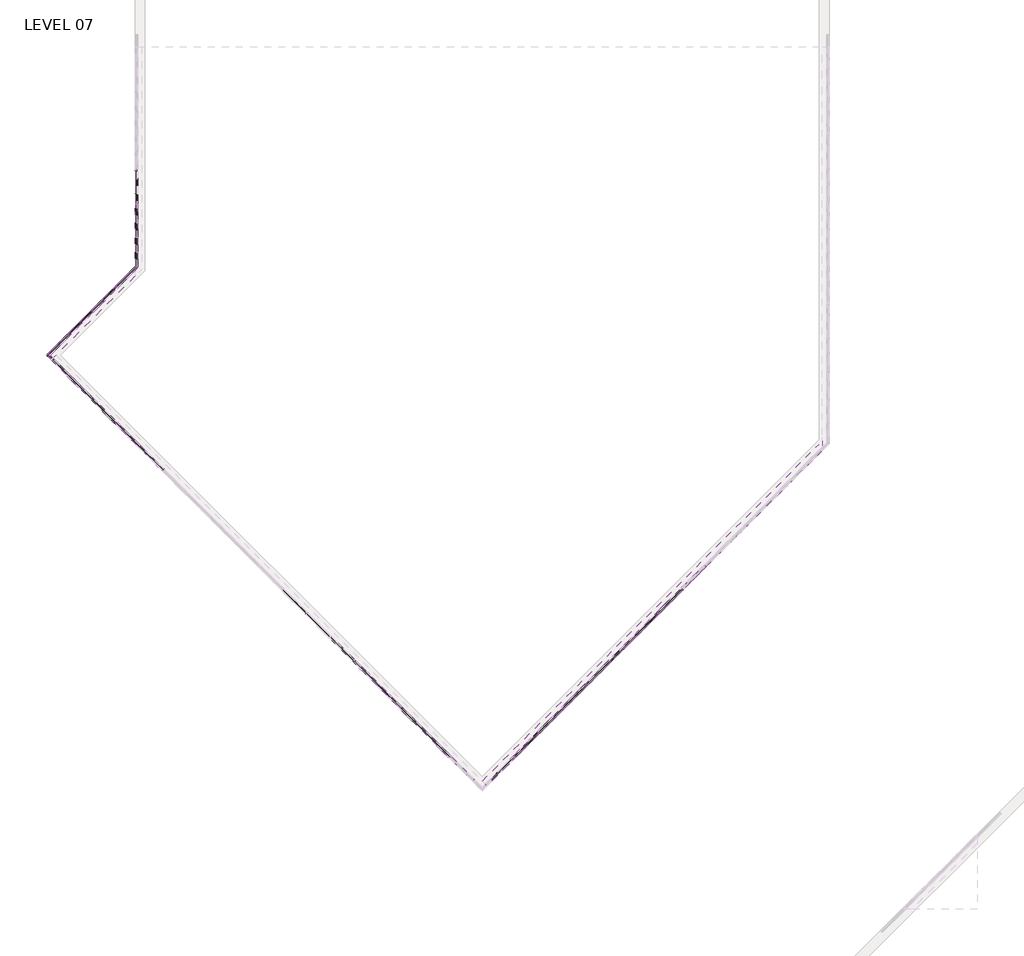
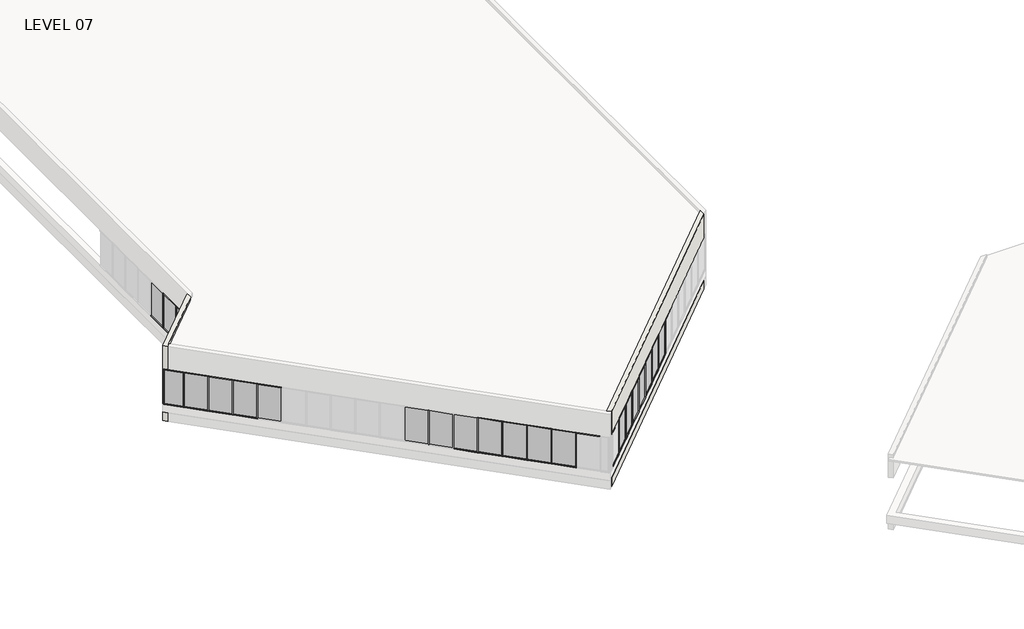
# One storey, part 3 of 18: 75 members, 26 plates, 4 walls.
"""IFC4 building model written with IfcOpenShell, lengths in millimetres."""

from ifc_helpers import new_model, si_unit, origin, place, context, project, spatial, faceted_brep, transform, mapped, element, save
from components import member_5247f267, member_e44af9ab, member_800970d4, member_45eb7f2e, member_53409b32, member_43bac76b, member_0b71a88d, plate_67294edd, plate_aaac5d3d, plate_048e4634, plate_9c66726c, plate_e0fd5134, plate_62af1d3c, plate_15429445, plate_0d1907f3, plate_903242d9

model = new_model("IFC4")

# Units and contexts
model_context = context("Model", 3, world=origin())
ifc_project = project(units=[si_unit("LENGTHUNIT", "METRE", prefix="MILLI")], contexts=[model_context])

# Site, building, storey
site = spatial("IfcSite", under=ifc_project)
building = spatial("IfcBuilding", under=site)
storey = spatial("IfcBuildingStorey", under=building, Name="LEVEL 07", Elevation=23368.0)

# Members
placement = place(None, origin())
member_shape = member_5247f267(model_context)
element("IfcMember", 1, ObjectType="Rectangular Mullion : 2\" x 4.5\" rectangular", at=placement, inside=storey, context=model_context, shape_type="MappedRepresentation", body=[
    mapped(member_shape, transform((-32784.0347164, 49110.5675885, 25958.8), x_axis=(0.0, 0.0, 1.0), y_axis=(1.0, 0.0, 0.0), z_axis=(0.0, 1.0, 0.0))),
])
element("IfcMember", 2, ObjectType="Rectangular Mullion : 2\" x 4.5\" rectangular", at=placement, inside=storey, context=model_context, shape_type="MappedRepresentation", body=[
    mapped(member_shape, transform((-8176.5824051, 31737.5637642, 25958.8), x_axis=(0.0, 0.0, 1.0), y_axis=(-0.7071067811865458, 0.7071067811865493, 0.0), z_axis=(-0.7071067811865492, -0.7071067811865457, 0.0))),
])
element("IfcMember", 3, ObjectType="Rectangular Mullion : 2\" x 4.5\" rectangular", at=placement, inside=storey, context=model_context, shape_type="MappedRepresentation", body=[
    mapped(member_shape, transform((-9254.1983379, 30659.9478314, 25958.8), x_axis=(0.0, 0.0, 1.0), y_axis=(-0.7071067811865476, 0.7071067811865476, 0.0), z_axis=(-0.7071067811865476, -0.7071067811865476, 0.0))),
])
element("IfcMember", 4, ObjectType="Rectangular Mullion : 2\" x 4.5\" rectangular", at=placement, inside=storey, context=model_context, shape_type="MappedRepresentation", body=[
    mapped(member_shape, transform((-10331.8142707, 29582.3318986, 25958.8), x_axis=(0.0, 0.0, 1.0), y_axis=(-0.7071067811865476, 0.7071067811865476, 0.0), z_axis=(-0.7071067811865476, -0.7071067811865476, 0.0))),
])
element("IfcMember", 5, ObjectType="Rectangular Mullion : 2\" x 4.5\" rectangular", at=placement, inside=storey, context=model_context, shape_type="MappedRepresentation", body=[
    mapped(member_shape, transform((-11409.4302035, 28504.7159658, 25958.8), x_axis=(0.0, 0.0, 1.0), y_axis=(-0.7071067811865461, 0.707106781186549, 0.0), z_axis=(-0.707106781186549, -0.7071067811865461, 0.0))),
])
element("IfcMember", 6, ObjectType="Rectangular Mullion : 2\" x 4.5\" rectangular", at=placement, inside=storey, context=model_context, shape_type="MappedRepresentation", body=[
    mapped(member_shape, transform((-13564.6768709, 26349.4692984, 25958.8), x_axis=(0.0, 0.0, 1.0), y_axis=(-0.7071067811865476, 0.7071067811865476, 0.0), z_axis=(-0.7071067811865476, -0.7071067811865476, 0.0))),
])
element("IfcMember", 7, ObjectType="Rectangular Mullion : 2\" x 4.5\" rectangular", at=placement, inside=storey, context=model_context, shape_type="MappedRepresentation", body=[
    mapped(member_shape, transform((-12487.0535372, 27427.0926321, 25958.8), x_axis=(0.0, 0.0, 1.0), y_axis=(-0.7071067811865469, 0.7071067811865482, 0.0), z_axis=(-0.7071067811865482, -0.7071067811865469, 0.0))),
])
element("IfcMember", 8, ObjectType="Rectangular Mullion : 2\" x 4.5\" rectangular", at=placement, inside=storey, context=model_context, shape_type="MappedRepresentation", body=[
    mapped(member_shape, transform((-14642.3076054, 25271.8385639, 25958.8), x_axis=(0.0, 0.0, 1.0), y_axis=(-0.7071067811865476, 0.7071067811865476, 0.0), z_axis=(-0.7071067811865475, -0.7071067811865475, 0.0))),
])
element("IfcMember", 9, ObjectType="Rectangular Mullion : 2\" x 4.5\" rectangular", at=placement, inside=storey, context=model_context, shape_type="MappedRepresentation", body=[
    mapped(member_shape, transform((-15719.9383399, 24194.2078294, 25958.8), x_axis=(0.0, 0.0, 1.0), y_axis=(-0.7071067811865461, 0.7071067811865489, 0.0), z_axis=(-0.7071067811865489, -0.7071067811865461, 0.0))),
])
element("IfcMember", 10, ObjectType="Rectangular Mullion : 2\" x 4.5\" rectangular", at=placement, inside=storey, context=model_context, shape_type="MappedRepresentation", body=[
    mapped(member_shape, transform((-19717.6908029, 25235.9175394, 25958.8), x_axis=(0.0, 0.0, 1.0), y_axis=(0.7071067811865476, 0.7071067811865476, 0.0), z_axis=(-0.7071067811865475, 0.7071067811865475, 0.0))),
])
element("IfcMember", 11, ObjectType="Rectangular Mullion : 2\" x 4.5\" rectangular", at=placement, inside=storey, context=model_context, shape_type="MappedRepresentation", body=[
    mapped(member_shape, transform((-20795.3215374, 26313.5482739, 25958.8), x_axis=(0.0, 0.0, 1.0), y_axis=(0.7071067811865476, 0.7071067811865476, 0.0), z_axis=(-0.7071067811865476, 0.7071067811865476, 0.0))),
])
element("IfcMember", 12, ObjectType="Rectangular Mullion : 2\" x 4.5\" rectangular", at=placement, inside=storey, context=model_context, shape_type="MappedRepresentation", body=[
    mapped(member_shape, transform((-22950.547272, 28468.7740085, 25958.8), x_axis=(0.0, 0.0, 1.0), y_axis=(0.7071067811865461, 0.707106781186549, 0.0), z_axis=(-0.707106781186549, 0.7071067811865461, 0.0))),
])
element("IfcMember", 13, ObjectType="Rectangular Mullion : 2\" x 4.5\" rectangular", at=placement, inside=storey, context=model_context, shape_type="MappedRepresentation", body=[
    mapped(member_shape, transform((-18640.0600684, 24158.2868049, 25958.8), x_axis=(0.0, 0.0, 1.0), y_axis=(0.7071067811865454, 0.7071067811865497, 0.0), z_axis=(-0.7071067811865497, 0.7071067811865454, 0.0))),
])
element("IfcMember", 14, ObjectType="Rectangular Mullion : 2\" x 4.5\" rectangular", at=placement, inside=storey, context=model_context, shape_type="MappedRepresentation", body=[
    mapped(member_shape, transform((-21872.9344047, 27391.1611412, 25958.8), x_axis=(0.0, 0.0, 1.0), y_axis=(0.7071067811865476, 0.7071067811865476, 0.0), z_axis=(-0.7071067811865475, 0.7071067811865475, 0.0))),
])
element("IfcMember", 15, ObjectType="Rectangular Mullion : 2\" x 4.5\" rectangular", at=placement, inside=storey, context=model_context, shape_type="MappedRepresentation", body=[
    mapped(member_shape, transform((-32625.1316457, 38143.3583822, 25958.8), x_axis=(0.0, 0.0, 1.0), y_axis=(0.7071067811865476, 0.7071067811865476, 0.0), z_axis=(-0.7071067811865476, 0.7071067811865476, 0.0))),
])
element("IfcMember", 16, ObjectType="Rectangular Mullion : 2\" x 4.5\" rectangular", at=placement, inside=storey, context=model_context, shape_type="MappedRepresentation", body=[
    mapped(member_shape, transform((-33702.7623802, 39220.9891167, 25958.8), x_axis=(0.0, 0.0, 1.0), y_axis=(0.7071067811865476, 0.7071067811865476, 0.0), z_axis=(-0.7071067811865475, 0.7071067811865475, 0.0))),
])
element("IfcMember", 17, ObjectType="Rectangular Mullion : 2\" x 4.5\" rectangular", at=placement, inside=storey, context=model_context, shape_type="MappedRepresentation", body=[
    mapped(member_shape, transform((-34780.3931147, 40298.6198512, 25958.8), x_axis=(0.0, 0.0, 1.0), y_axis=(0.7071067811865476, 0.7071067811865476, 0.0), z_axis=(-0.7071067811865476, 0.7071067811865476, 0.0))),
])
element("IfcMember", 18, ObjectType="Rectangular Mullion : 2\" x 4.5\" rectangular", at=placement, inside=storey, context=model_context, shape_type="MappedRepresentation", body=[
    mapped(member_shape, transform((-35858.0238493, 41376.2505858, 25958.8), x_axis=(0.0, 0.0, 1.0), y_axis=(0.7071067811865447, 0.7071067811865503, 0.0), z_axis=(-0.7071067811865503, 0.7071067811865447, 0.0))),
])
element("IfcMember", 19, ObjectType="Rectangular Mullion : 2\" x 4.5\" rectangular", at=placement, inside=storey, context=model_context, shape_type="MappedRepresentation", body=[
    mapped(member_shape, transform((-34789.2847655, 44248.423675, 25958.8), x_axis=(0.0, 0.0, 1.0), y_axis=(0.7071067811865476, -0.7071067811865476, 0.0), z_axis=(0.7071067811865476, 0.7071067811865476, 0.0))),
])
element("IfcMember", 20, ObjectType="Rectangular Mullion : 2\" x 4.5\" rectangular", at=placement, inside=storey, context=model_context, shape_type="MappedRepresentation", body=[
    mapped(member_shape, transform((-33711.654031, 45326.0544096, 25958.8), x_axis=(0.0, 0.0, 1.0), y_axis=(0.7071067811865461, -0.707106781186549, 0.0), z_axis=(0.7071067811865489, 0.707106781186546, 0.0))),
])
element("IfcMember", 21, ObjectType="Rectangular Mullion : 2\" x 4.5\" rectangular", at=placement, inside=storey, context=model_context, shape_type="MappedRepresentation", body=[
    mapped(member_shape, transform((-32784.0347164, 47637.3675885, 23368.0), x_axis=(0.0, 0.0, -1.0), y_axis=(1.0, 0.0, 0.0), z_axis=(0.0, -1.0, 0.0))),
])
element("IfcMember", 22, ObjectType="Rectangular Mullion : 2\" x 4.5\" rectangular", at=placement, inside=storey, context=model_context, shape_type="MappedRepresentation", body=[
    mapped(member_shape, transform((-32784.0347164, 49161.3675885, 23368.0), x_axis=(0.0, 0.0, -1.0), y_axis=(1.0, 0.0, 0.0), z_axis=(0.0, -1.0, 0.0))),
])
element("IfcMember", 23, ObjectType="Rectangular Mullion : 2\" x 4.5\" rectangular", at=placement, inside=storey, context=model_context, shape_type="MappedRepresentation", body=[
    mapped(member_shape, transform((-8212.5034296, 31701.6427397, 23368.0), x_axis=(0.0, 0.0, -1.0), y_axis=(-0.7071067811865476, 0.7071067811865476, 0.0), z_axis=(0.7071067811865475, 0.7071067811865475, 0.0))),
])
element("IfcMember", 24, ObjectType="Rectangular Mullion : 2\" x 4.5\" rectangular", at=placement, inside=storey, context=model_context, shape_type="MappedRepresentation", body=[
    mapped(member_shape, transform((-9290.1193624, 30624.0268069, 23368.0), x_axis=(0.0, 0.0, -1.0), y_axis=(-0.7071067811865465, 0.7071067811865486, 0.0), z_axis=(0.7071067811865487, 0.7071067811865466, 0.0))),
])
element("IfcMember", 25, ObjectType="Rectangular Mullion : 2\" x 4.5\" rectangular", at=placement, inside=storey, context=model_context, shape_type="MappedRepresentation", body=[
    mapped(member_shape, transform((-10367.7352952, 29546.4108741, 23368.0), x_axis=(0.0, 0.0, -1.0), y_axis=(-0.7071067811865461, 0.707106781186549, 0.0), z_axis=(0.707106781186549, 0.7071067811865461, 0.0))),
])
element("IfcMember", 26, ObjectType="Rectangular Mullion : 2\" x 4.5\" rectangular", at=placement, inside=storey, context=model_context, shape_type="MappedRepresentation", body=[
    mapped(member_shape, transform((-11445.351228, 28468.7949413, 23368.0), x_axis=(0.0, 0.0, -1.0), y_axis=(-0.7071067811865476, 0.7071067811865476, 0.0), z_axis=(0.7071067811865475, 0.7071067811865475, 0.0))),
])
element("IfcMember", 27, ObjectType="Rectangular Mullion : 2\" x 4.5\" rectangular", at=placement, inside=storey, context=model_context, shape_type="MappedRepresentation", body=[
    mapped(member_shape, transform((-13600.5978954, 26313.5482739, 23368.0), x_axis=(0.0, 0.0, -1.0), y_axis=(-0.7071067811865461, 0.7071067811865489, 0.0), z_axis=(0.7071067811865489, 0.7071067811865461, 0.0))),
])
element("IfcMember", 28, ObjectType="Rectangular Mullion : 2\" x 4.5\" rectangular", at=placement, inside=storey, context=model_context, shape_type="MappedRepresentation", body=[
    mapped(member_shape, transform((-12522.9745617, 27391.1716076, 23368.0), x_axis=(0.0, 0.0, -1.0), y_axis=(-0.7071067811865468, 0.7071067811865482, 0.0), z_axis=(0.7071067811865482, 0.7071067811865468, 0.0))),
])
element("IfcMember", 29, ObjectType="Rectangular Mullion : 2\" x 4.5\" rectangular", at=placement, inside=storey, context=model_context, shape_type="MappedRepresentation", body=[
    mapped(member_shape, transform((-14678.2286299, 25235.9175394, 23368.0), x_axis=(0.0, 0.0, -1.0), y_axis=(-0.7071067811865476, 0.7071067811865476, 0.0), z_axis=(0.7071067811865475, 0.7071067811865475, 0.0))),
])
element("IfcMember", 30, ObjectType="Rectangular Mullion : 2\" x 4.5\" rectangular", at=placement, inside=storey, context=model_context, shape_type="MappedRepresentation", body=[
    mapped(member_shape, transform((-15755.8593644, 24158.2868049, 23368.0), x_axis=(0.0, 0.0, -1.0), y_axis=(-0.7071067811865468, 0.7071067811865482, 0.0), z_axis=(0.7071067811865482, 0.7071067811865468, 0.0))),
])
element("IfcMember", 31, ObjectType="Rectangular Mullion : 2\" x 4.5\" rectangular", at=placement, inside=storey, context=model_context, shape_type="MappedRepresentation", body=[
    mapped(member_shape, transform((-19753.6118274, 25271.8385639, 23368.0), x_axis=(0.0, 0.0, -1.0), y_axis=(0.7071067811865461, 0.707106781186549, 0.0), z_axis=(0.7071067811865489, -0.707106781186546, 0.0))),
])
element("IfcMember", 32, ObjectType="Rectangular Mullion : 2\" x 4.5\" rectangular", at=placement, inside=storey, context=model_context, shape_type="MappedRepresentation", body=[
    mapped(member_shape, transform((-20831.2425619, 26349.4692984, 23368.0), x_axis=(0.0, 0.0, -1.0), y_axis=(0.7071067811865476, 0.7071067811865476, 0.0), z_axis=(0.7071067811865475, -0.7071067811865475, 0.0))),
])
element("IfcMember", 33, ObjectType="Rectangular Mullion : 2\" x 4.5\" rectangular", at=placement, inside=storey, context=model_context, shape_type="MappedRepresentation", body=[
    mapped(member_shape, transform((-22986.4682965, 28504.6950329, 23368.0), x_axis=(0.0, 0.0, -1.0), y_axis=(0.7071067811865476, 0.7071067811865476, 0.0), z_axis=(0.7071067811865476, -0.7071067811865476, 0.0))),
])
element("IfcMember", 34, ObjectType="Rectangular Mullion : 2\" x 4.5\" rectangular", at=placement, inside=storey, context=model_context, shape_type="MappedRepresentation", body=[
    mapped(member_shape, transform((-18675.9810929, 24194.2078294, 23368.0), x_axis=(0.0, 0.0, -1.0), y_axis=(0.7071067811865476, 0.7071067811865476, 0.0), z_axis=(0.7071067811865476, -0.7071067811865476, 0.0))),
])
element("IfcMember", 35, ObjectType="Rectangular Mullion : 2\" x 4.5\" rectangular", at=placement, inside=storey, context=model_context, shape_type="MappedRepresentation", body=[
    mapped(member_shape, transform((-21908.8554292, 27427.0821657, 23368.0), x_axis=(0.0, 0.0, -1.0), y_axis=(0.7071067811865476, 0.7071067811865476, 0.0), z_axis=(0.7071067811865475, -0.7071067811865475, 0.0))),
])
element("IfcMember", 36, ObjectType="Rectangular Mullion : 2\" x 4.5\" rectangular", at=placement, inside=storey, context=model_context, shape_type="MappedRepresentation", body=[
    mapped(member_shape, transform((-32661.0526702, 38179.2794067, 23368.0), x_axis=(0.0, 0.0, -1.0), y_axis=(0.7071067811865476, 0.7071067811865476, 0.0), z_axis=(0.7071067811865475, -0.7071067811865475, 0.0))),
])
element("IfcMember", 37, ObjectType="Rectangular Mullion : 2\" x 4.5\" rectangular", at=placement, inside=storey, context=model_context, shape_type="MappedRepresentation", body=[
    mapped(member_shape, transform((-33738.6834047, 39256.9101412, 23368.0), x_axis=(0.0, 0.0, -1.0), y_axis=(0.7071067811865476, 0.7071067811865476, 0.0), z_axis=(0.7071067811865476, -0.7071067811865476, 0.0))),
])
element("IfcMember", 38, ObjectType="Rectangular Mullion : 2\" x 4.5\" rectangular", at=placement, inside=storey, context=model_context, shape_type="MappedRepresentation", body=[
    mapped(member_shape, transform((-34816.3141392, 40334.5408757, 23368.0), x_axis=(0.0, 0.0, -1.0), y_axis=(0.7071067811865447, 0.7071067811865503, 0.0), z_axis=(0.7071067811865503, -0.7071067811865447, 0.0))),
])
element("IfcMember", 39, ObjectType="Rectangular Mullion : 2\" x 4.5\" rectangular", at=placement, inside=storey, context=model_context, shape_type="MappedRepresentation", body=[
    mapped(member_shape, transform((-34753.363741, 44284.3446995, 23368.0), x_axis=(0.0, 0.0, -1.0), y_axis=(0.7071067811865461, -0.707106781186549, 0.0), z_axis=(-0.7071067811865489, -0.707106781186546, 0.0))),
])
element("IfcMember", 40, ObjectType="Rectangular Mullion : 2\" x 4.5\" rectangular", at=placement, inside=storey, context=model_context, shape_type="MappedRepresentation", body=[
    mapped(member_shape, transform((-35830.9944756, 43206.713965, 23368.0), x_axis=(0.0, 0.0, -1.0), y_axis=(0.7071067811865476, -0.7071067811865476, 0.0), z_axis=(-0.7071067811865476, -0.7071067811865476, 0.0))),
])
member_2_shape = member_e44af9ab(model_context)
element("IfcMember", 41, ObjectType="Rectangular Mullion : 2\" x 4.5\" rectangular", at=placement, inside=storey, context=model_context, shape_type="MappedRepresentation", body=[
    mapped(member_2_shape, transform((-32784.0347164, 47611.9675885, 23368.0), x_axis=(0.0, 1.0, 0.0), y_axis=(1.0, 0.0, 0.0), z_axis=(0.0, 0.0, -1.0))),
])
element("IfcMember", 42, ObjectType="Rectangular Mullion : 2\" x 4.5\" rectangular", at=placement, inside=storey, context=model_context, shape_type="MappedRepresentation", body=[
    mapped(member_2_shape, transform((-32784.0347164, 49135.9675885, 23368.0), x_axis=(0.0, 1.0, 0.0), y_axis=(1.0, 0.0, 0.0), z_axis=(0.0, 0.0, -1.0))),
])
element("IfcMember", 43, ObjectType="Rectangular Mullion : 2\" x 4.5\" rectangular", at=placement, inside=storey, context=model_context, shape_type="MappedRepresentation", body=[
    mapped(member_2_shape, transform((-8194.5429174, 31719.6032519, 23368.0), x_axis=(-0.7071067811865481, -0.7071067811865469, 0.0), y_axis=(-0.7071067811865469, 0.7071067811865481, 0.0), z_axis=(0.0, 0.0, -1.0))),
])
element("IfcMember", 44, ObjectType="Rectangular Mullion : 2\" x 4.5\" rectangular", at=placement, inside=storey, context=model_context, shape_type="MappedRepresentation", body=[
    mapped(member_2_shape, transform((-9272.1588502, 30641.9873191, 23368.0), x_axis=(-0.7071067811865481, -0.7071067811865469, 0.0), y_axis=(-0.7071067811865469, 0.7071067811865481, 0.0), z_axis=(0.0, 0.0, -1.0))),
])
element("IfcMember", 45, ObjectType="Rectangular Mullion : 2\" x 4.5\" rectangular", at=placement, inside=storey, context=model_context, shape_type="MappedRepresentation", body=[
    mapped(member_2_shape, transform((-10349.774783, 29564.3713863, 23368.0), x_axis=(-0.7071067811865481, -0.7071067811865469, 0.0), y_axis=(-0.7071067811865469, 0.7071067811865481, 0.0), z_axis=(0.0, 0.0, -1.0))),
])
element("IfcMember", 46, ObjectType="Rectangular Mullion : 2\" x 4.5\" rectangular", at=placement, inside=storey, context=model_context, shape_type="MappedRepresentation", body=[
    mapped(member_2_shape, transform((-11427.3907158, 28486.7554535, 23368.0), x_axis=(-0.7071067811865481, -0.7071067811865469, 0.0), y_axis=(-0.7071067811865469, 0.7071067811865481, 0.0), z_axis=(0.0, 0.0, -1.0))),
])
element("IfcMember", 47, ObjectType="Rectangular Mullion : 2\" x 4.5\" rectangular", at=placement, inside=storey, context=model_context, shape_type="MappedRepresentation", body=[
    mapped(member_2_shape, transform((-13582.6373831, 26331.5087862, 23368.0), x_axis=(-0.7071067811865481, -0.7071067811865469, 0.0), y_axis=(-0.7071067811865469, 0.7071067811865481, 0.0), z_axis=(0.0, 0.0, -1.0))),
])
element("IfcMember", 48, ObjectType="Rectangular Mullion : 2\" x 4.5\" rectangular", at=placement, inside=storey, context=model_context, shape_type="MappedRepresentation", body=[
    mapped(member_2_shape, transform((-12505.0140495, 27409.1321198, 23368.0), x_axis=(-0.7071067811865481, -0.7071067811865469, 0.0), y_axis=(-0.7071067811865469, 0.7071067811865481, 0.0), z_axis=(0.0, 0.0, -1.0))),
])
element("IfcMember", 49, ObjectType="Rectangular Mullion : 2\" x 4.5\" rectangular", at=placement, inside=storey, context=model_context, shape_type="MappedRepresentation", body=[
    mapped(member_2_shape, transform((-14660.2681176, 25253.8780517, 23368.0), x_axis=(-0.7071067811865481, -0.7071067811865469, 0.0), y_axis=(-0.7071067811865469, 0.7071067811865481, 0.0), z_axis=(0.0, 0.0, -1.0))),
])
element("IfcMember", 50, ObjectType="Rectangular Mullion : 2\" x 4.5\" rectangular", at=placement, inside=storey, context=model_context, shape_type="MappedRepresentation", body=[
    mapped(member_2_shape, transform((-15737.8988522, 24176.2473171, 23368.0), x_axis=(-0.7071067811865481, -0.7071067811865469, 0.0), y_axis=(-0.7071067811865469, 0.7071067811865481, 0.0), z_axis=(0.0, 0.0, -1.0))),
])
element("IfcMember", 51, ObjectType="Rectangular Mullion : 2\" x 4.5\" rectangular", at=placement, inside=storey, context=model_context, shape_type="MappedRepresentation", body=[
    mapped(member_2_shape, transform((-19735.6513152, 25253.8780517, 23368.0), x_axis=(-0.7071067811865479, 0.7071067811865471, 0.0), y_axis=(0.7071067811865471, 0.7071067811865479, 0.0), z_axis=(0.0, 0.0, -1.0))),
])
element("IfcMember", 52, ObjectType="Rectangular Mullion : 2\" x 4.5\" rectangular", at=placement, inside=storey, context=model_context, shape_type="MappedRepresentation", body=[
    mapped(member_2_shape, transform((-20813.2820497, 26331.5087862, 23368.0), x_axis=(-0.7071067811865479, 0.7071067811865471, 0.0), y_axis=(0.7071067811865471, 0.7071067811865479, 0.0), z_axis=(0.0, 0.0, -1.0))),
])
element("IfcMember", 53, ObjectType="Rectangular Mullion : 2\" x 4.5\" rectangular", at=placement, inside=storey, context=model_context, shape_type="MappedRepresentation", body=[
    mapped(member_2_shape, transform((-22968.5077842, 28486.7345207, 23368.0), x_axis=(-0.7071067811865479, 0.7071067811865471, 0.0), y_axis=(0.7071067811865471, 0.7071067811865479, 0.0), z_axis=(0.0, 0.0, -1.0))),
])
element("IfcMember", 54, ObjectType="Rectangular Mullion : 2\" x 4.5\" rectangular", at=placement, inside=storey, context=model_context, shape_type="MappedRepresentation", body=[
    mapped(member_2_shape, transform((-25123.6977842, 30641.9245207, 23368.0), x_axis=(-0.7071067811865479, 0.7071067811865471, 0.0), y_axis=(0.7071067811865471, 0.7071067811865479, 0.0), z_axis=(0.0, 0.0, -1.0))),
])
element("IfcMember", 55, ObjectType="Rectangular Mullion : 2\" x 4.5\" rectangular", at=placement, inside=storey, context=model_context, shape_type="MappedRepresentation", body=[
    mapped(member_2_shape, transform((-18658.0205806, 24176.2473171, 23368.0), x_axis=(-0.7071067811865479, 0.7071067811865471, 0.0), y_axis=(0.7071067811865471, 0.7071067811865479, 0.0), z_axis=(0.0, 0.0, -1.0))),
])
element("IfcMember", 56, ObjectType="Rectangular Mullion : 2\" x 4.5\" rectangular", at=placement, inside=storey, context=model_context, shape_type="MappedRepresentation", body=[
    mapped(member_2_shape, transform((-21890.894917, 27409.1216534, 23368.0), x_axis=(-0.7071067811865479, 0.7071067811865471, 0.0), y_axis=(0.7071067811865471, 0.7071067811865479, 0.0), z_axis=(0.0, 0.0, -1.0))),
])
element("IfcMember", 57, ObjectType="Rectangular Mullion : 2\" x 4.5\" rectangular", at=placement, inside=storey, context=model_context, shape_type="MappedRepresentation", body=[
    mapped(member_2_shape, transform((-32643.0921579, 38161.3188944, 23368.0), x_axis=(-0.7071067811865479, 0.7071067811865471, 0.0), y_axis=(0.7071067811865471, 0.7071067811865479, 0.0), z_axis=(0.0, 0.0, -1.0))),
])
element("IfcMember", 58, ObjectType="Rectangular Mullion : 2\" x 4.5\" rectangular", at=placement, inside=storey, context=model_context, shape_type="MappedRepresentation", body=[
    mapped(member_2_shape, transform((-33720.7228924, 39238.9496289, 23368.0), x_axis=(-0.7071067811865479, 0.7071067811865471, 0.0), y_axis=(0.7071067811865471, 0.7071067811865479, 0.0), z_axis=(0.0, 0.0, -1.0))),
])
element("IfcMember", 59, ObjectType="Rectangular Mullion : 2\" x 4.5\" rectangular", at=placement, inside=storey, context=model_context, shape_type="MappedRepresentation", body=[
    mapped(member_2_shape, transform((-34798.353627, 40316.5803635, 23368.0), x_axis=(-0.7071067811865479, 0.7071067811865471, 0.0), y_axis=(0.7071067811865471, 0.7071067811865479, 0.0), z_axis=(0.0, 0.0, -1.0))),
])
element("IfcMember", 60, ObjectType="Rectangular Mullion : 2\" x 4.5\" rectangular", at=placement, inside=storey, context=model_context, shape_type="MappedRepresentation", body=[
    mapped(member_2_shape, transform((-35875.9843615, 41394.211098, 23368.0), x_axis=(-0.7071067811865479, 0.7071067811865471, 0.0), y_axis=(0.7071067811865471, 0.7071067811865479, 0.0), z_axis=(0.0, 0.0, -1.0))),
])
element("IfcMember", 61, ObjectType="Rectangular Mullion : 2\" x 4.5\" rectangular", at=placement, inside=storey, context=model_context, shape_type="MappedRepresentation", body=[
    mapped(member_2_shape, transform((-34771.3242533, 44266.3841873, 23368.0), x_axis=(0.7071067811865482, 0.7071067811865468, 0.0), y_axis=(0.7071067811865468, -0.7071067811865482, 0.0), z_axis=(0.0, 0.0, -1.0))),
])
element("IfcMember", 62, ObjectType="Rectangular Mullion : 2\" x 4.5\" rectangular", at=placement, inside=storey, context=model_context, shape_type="MappedRepresentation", body=[
    mapped(member_2_shape, transform((-33693.6935187, 45344.0149218, 23368.0), x_axis=(0.7071067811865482, 0.7071067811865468, 0.0), y_axis=(0.7071067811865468, -0.7071067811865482, 0.0), z_axis=(0.0, 0.0, -1.0))),
])
element("IfcMember", 63, ObjectType="Rectangular Mullion : 2\" x 4.5\" rectangular", at=placement, inside=storey, context=model_context, shape_type="MappedRepresentation", body=[
    mapped(member_2_shape, transform((-35848.9549878, 43188.7534527, 23368.0), x_axis=(0.7071067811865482, 0.7071067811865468, 0.0), y_axis=(0.7071067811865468, -0.7071067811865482, 0.0), z_axis=(0.0, 0.0, -1.0))),
])
member_3_shape = member_800970d4(model_context)
element("IfcMember", 64, ObjectType="Rectangular Mullion : 2\" x 4.5\" rectangular", at=placement, inside=storey, context=model_context, shape_type="MappedRepresentation", body=[
    mapped(member_3_shape, transform((-36759.740852, 42277.9675885, 23368.0), x_axis=(-0.7071067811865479, 0.7071067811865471, 0.0), y_axis=(0.7071067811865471, 0.7071067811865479, 0.0), z_axis=(0.0, 0.0, -1.0))),
])
element("IfcMember", 65, ObjectType="Rectangular Mullion : 2\" x 4.5\" rectangular", at=placement, inside=storey, context=model_context, shape_type="MappedRepresentation", body=[
    mapped(member_3_shape, transform((-32784.0347164, 46253.6737241, 23368.0), x_axis=(0.7071067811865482, 0.7071067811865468, 0.0), y_axis=(0.7071067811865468, -0.7071067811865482, 0.0), z_axis=(0.0, 0.0, -1.0))),
])
element("IfcMember", 66, ObjectType="Rectangular Mullion : 2\" x 4.5\" rectangular", at=placement, inside=storey, context=model_context, shape_type="MappedRepresentation", body=[
    mapped(member_3_shape, transform((-32784.0347164, 46253.6737241, 25958.8), x_axis=(0.0, -1.0, 0.0), y_axis=(1.0, 0.0, 0.0), z_axis=(0.0, 0.0, 1.0))),
])
element("IfcMember", 67, ObjectType="Rectangular Mullion : 2\" x 4.5\" rectangular", at=placement, inside=storey, context=model_context, shape_type="MappedRepresentation", body=[
    mapped(member_3_shape, transform((-36759.740852, 42277.9675885, 25958.8), x_axis=(-0.7071067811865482, -0.7071067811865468, 0.0), y_axis=(0.7071067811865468, -0.7071067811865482, 0.0), z_axis=(0.0, 0.0, 1.0))),
])
member_4_shape = member_45eb7f2e(model_context)
element("IfcMember", 68, ObjectType="Rectangular Mullion : 2\" x 4.5\" rectangular", at=placement, inside=storey, context=model_context, shape_type="MappedRepresentation", body=[
    mapped(member_4_shape, transform((-32784.0347164, 47586.5675885, 25958.8), x_axis=(0.0, 0.0, 1.0), y_axis=(1.0, 0.0, 0.0), z_axis=(0.0, 1.0, 0.0))),
])
element("IfcMember", 69, ObjectType="Rectangular Mullion : 2\" x 4.5\" rectangular", at=placement, inside=storey, context=model_context, shape_type="MappedRepresentation", body=[
    mapped(member_4_shape, transform((-32784.0347164, 46304.4737241, 23368.0), x_axis=(0.0, 0.0, -1.0), y_axis=(1.0, 0.0, 0.0), z_axis=(0.0, -1.0, 0.0))),
])
member_5_shape = member_53409b32(model_context)
element("IfcMember", 70, ObjectType="Rectangular Mullion : 2\" x 4.5\" rectangular", at=placement, inside=storey, context=model_context, shape_type="MappedRepresentation", body=[
    mapped(member_5_shape, transform((-36723.8198275, 42242.046564, 25958.8), x_axis=(0.0, 0.0, 1.0), y_axis=(0.7071067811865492, 0.7071067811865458, 0.0), z_axis=(-0.7071067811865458, 0.7071067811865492, 0.0))),
])
element("IfcMember", 71, ObjectType="Rectangular Mullion : 2\" x 4.5\" rectangular", at=placement, inside=storey, context=model_context, shape_type="MappedRepresentation", body=[
    mapped(member_5_shape, transform((-35893.9448737, 41412.1716102, 23368.0), x_axis=(0.0, 0.0, -1.0), y_axis=(0.7071067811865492, 0.7071067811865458, 0.0), z_axis=(0.7071067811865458, -0.7071067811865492, 0.0))),
])
member_6_shape = member_43bac76b(model_context)
element("IfcMember", 72, ObjectType="Rectangular Mullion : 2\" x 4.5\" rectangular", at=placement, inside=storey, context=model_context, shape_type="MappedRepresentation", body=[
    mapped(member_6_shape, transform((-32819.9557409, 46217.7526997, 25958.8), x_axis=(0.0, 0.0, 1.0), y_axis=(0.7071067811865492, -0.7071067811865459, 0.0), z_axis=(0.7071067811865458, 0.7071067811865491, 0.0))),
])
member_7_shape = member_0b71a88d(model_context)
element("IfcMember", 73, ObjectType="Rectangular Mullion : 2\" x 4.5\" rectangular", at=placement, inside=storey, context=model_context, shape_type="MappedRepresentation", body=[
    mapped(member_7_shape, transform((-36723.8198275, 42313.888613, 23368.0), x_axis=(0.0, 0.0, -1.0), y_axis=(0.7071067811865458, -0.7071067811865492, 0.0), z_axis=(-0.7071067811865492, -0.7071067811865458, 0.0))),
])
element("IfcMember", 74, ObjectType="Rectangular Mullion : 2\" x 4.5\" rectangular", at=placement, inside=storey, context=model_context, shape_type="MappedRepresentation", body=[
    mapped(member_6_shape, transform((-33675.7330065, 45361.975434, 23368.0), x_axis=(0.0, 0.0, -1.0), y_axis=(0.7071067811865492, -0.7071067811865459, 0.0), z_axis=(-0.7071067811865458, -0.7071067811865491, 0.0))),
])
element("IfcMember", 75, ObjectType="Rectangular Mullion : 2\" x 4.5\" rectangular", at=placement, inside=storey, context=model_context, shape_type="MappedRepresentation", body=[
    mapped(member_7_shape, transform((-35866.9155, 43170.7929405, 25958.8), x_axis=(0.0, 0.0, 1.0), y_axis=(0.7071067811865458, -0.7071067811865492, 0.0), z_axis=(0.7071067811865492, 0.7071067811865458, 0.0))),
])

# Plates
plate_shape = plate_67294edd(model_context)
element("IfcPlate", 76, ObjectType="System Panel : 1/4\" Glass", at=placement, inside=storey, context=model_context, shape_type="MappedRepresentation", body=[
    mapped(plate_shape, transform((-32784.0347164, 48373.9675885, 23418.8), x_axis=(0.0, 1.0, 0.0), y_axis=(-1.0, 0.0, 0.0), z_axis=(0.0, 0.0, 1.0))),
])
element("IfcPlate", 77, ObjectType="System Panel : 1/4\" Glass", at=placement, inside=storey, context=model_context, shape_type="MappedRepresentation", body=[
    mapped(plate_shape, transform((-32784.0347164, 49897.9675885, 23418.8), x_axis=(0.0, 1.0, 0.0), y_axis=(-1.0, 0.0, 0.0), z_axis=(0.0, 0.0, 1.0))),
])
element("IfcPlate", 78, ObjectType="System Panel : 1/4\" Glass", at=placement, inside=storey, context=model_context, shape_type="MappedRepresentation", body=[
    mapped(plate_shape, transform((-14121.4527504, 25792.6934189, 23418.8), x_axis=(-0.7071067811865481, -0.7071067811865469, 0.0), y_axis=(0.7071067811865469, -0.7071067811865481, 0.0), z_axis=(0.0, 0.0, 1.0))),
])
element("IfcPlate", 79, ObjectType="System Panel : 1/4\" Glass", at=placement, inside=storey, context=model_context, shape_type="MappedRepresentation", body=[
    mapped(plate_shape, transform((-15199.0834849, 24715.0626844, 23418.8), x_axis=(-0.7071067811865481, -0.7071067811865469, 0.0), y_axis=(0.7071067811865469, -0.7071067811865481, 0.0), z_axis=(0.0, 0.0, 1.0))),
])
element("IfcPlate", 80, ObjectType="System Panel : 1/4\" Glass", at=placement, inside=storey, context=model_context, shape_type="MappedRepresentation", body=[
    mapped(plate_shape, transform((-20274.4666824, 25792.6934189, 23418.8), x_axis=(-0.7071067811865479, 0.7071067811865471, 0.0), y_axis=(-0.7071067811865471, -0.7071067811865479, 0.0), z_axis=(0.0, 0.0, 1.0))),
])
element("IfcPlate", 81, ObjectType="System Panel : 1/4\" Glass", at=placement, inside=storey, context=model_context, shape_type="MappedRepresentation", body=[
    mapped(plate_shape, transform((-32104.2767907, 37622.5035271, 23418.8), x_axis=(-0.7071067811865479, 0.7071067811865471, 0.0), y_axis=(-0.7071067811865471, -0.7071067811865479, 0.0), z_axis=(0.0, 0.0, 1.0))),
])
element("IfcPlate", 82, ObjectType="System Panel : 1/4\" Glass", at=placement, inside=storey, context=model_context, shape_type="MappedRepresentation", body=[
    mapped(plate_shape, transform((-19196.8359479, 24715.0626844, 23418.8), x_axis=(-0.7071067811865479, 0.7071067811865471, 0.0), y_axis=(-0.7071067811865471, -0.7071067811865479, 0.0), z_axis=(0.0, 0.0, 1.0))),
])
element("IfcPlate", 83, ObjectType="System Panel : 1/4\" Glass", at=placement, inside=storey, context=model_context, shape_type="MappedRepresentation", body=[
    mapped(plate_shape, transform((-33181.9075252, 38700.1342617, 23418.8), x_axis=(-0.7071067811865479, 0.7071067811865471, 0.0), y_axis=(-0.7071067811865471, -0.7071067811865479, 0.0), z_axis=(0.0, 0.0, 1.0))),
])
element("IfcPlate", 84, ObjectType="System Panel : 1/4\" Glass", at=placement, inside=storey, context=model_context, shape_type="MappedRepresentation", body=[
    mapped(plate_shape, transform((-34259.5382597, 39777.7649962, 23418.8), x_axis=(-0.7071067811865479, 0.7071067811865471, 0.0), y_axis=(-0.7071067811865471, -0.7071067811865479, 0.0), z_axis=(0.0, 0.0, 1.0))),
])
element("IfcPlate", 85, ObjectType="System Panel : 1/4\" Glass", at=placement, inside=storey, context=model_context, shape_type="MappedRepresentation", body=[
    mapped(plate_shape, transform((-35337.1689942, 40855.3957307, 23418.8), x_axis=(-0.7071067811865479, 0.7071067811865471, 0.0), y_axis=(-0.7071067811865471, -0.7071067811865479, 0.0), z_axis=(0.0, 0.0, 1.0))),
])
element("IfcPlate", 86, ObjectType="System Panel : 1/4\" Glass", at=placement, inside=storey, context=model_context, shape_type="MappedRepresentation", body=[
    mapped(plate_shape, transform((-34232.508886, 44805.1995545, 23418.8), x_axis=(0.7071067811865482, 0.7071067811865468, 0.0), y_axis=(-0.7071067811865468, 0.7071067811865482, 0.0), z_axis=(0.0, 0.0, 1.0))),
])
element("IfcPlate", 87, ObjectType="System Panel : 1/4\" Glass", at=placement, inside=storey, context=model_context, shape_type="MappedRepresentation", body=[
    mapped(plate_shape, transform((-35310.1396205, 43727.56882, 23418.8), x_axis=(0.7071067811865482, 0.7071067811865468, 0.0), y_axis=(-0.7071067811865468, 0.7071067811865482, 0.0), z_axis=(0.0, 0.0, 1.0))),
])
plate_2_shape = plate_aaac5d3d(model_context)
element("IfcPlate", 88, ObjectType="System Panel : 1/4\" Glass", at=placement, inside=storey, context=model_context, shape_type="MappedRepresentation", body=[
    mapped(plate_2_shape, transform((-8733.3508838, 31180.7952855, 23418.8), x_axis=(-0.7071067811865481, -0.7071067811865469, 0.0), y_axis=(0.7071067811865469, -0.7071067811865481, 0.0), z_axis=(0.0, 0.0, 1.0))),
])
element("IfcPlate", 89, ObjectType="System Panel : 1/4\" Glass", at=placement, inside=storey, context=model_context, shape_type="MappedRepresentation", body=[
    mapped(plate_2_shape, transform((-9810.9668166, 30103.1793527, 23418.8), x_axis=(-0.7071067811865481, -0.7071067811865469, 0.0), y_axis=(0.7071067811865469, -0.7071067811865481, 0.0), z_axis=(0.0, 0.0, 1.0))),
])
element("IfcPlate", 90, ObjectType="System Panel : 1/4\" Glass", at=placement, inside=storey, context=model_context, shape_type="MappedRepresentation", body=[
    mapped(plate_2_shape, transform((-10888.5827494, 29025.5634199, 23418.8), x_axis=(-0.7071067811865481, -0.7071067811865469, 0.0), y_axis=(0.7071067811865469, -0.7071067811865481, 0.0), z_axis=(0.0, 0.0, 1.0))),
])
plate_3_shape = plate_048e4634(model_context)
element("IfcPlate", 91, ObjectType="System Panel : 1/4\" Glass", at=placement, inside=storey, context=model_context, shape_type="MappedRepresentation", body=[
    mapped(plate_3_shape, transform((-23507.3052842, 29025.5320207, 23418.8), x_axis=(-0.7071067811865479, 0.7071067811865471, 0.0), y_axis=(-0.7071067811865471, -0.7071067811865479, 0.0), z_axis=(0.0, 0.0, 1.0))),
])
element("IfcPlate", 92, ObjectType="System Panel : 1/4\" Glass", at=placement, inside=storey, context=model_context, shape_type="MappedRepresentation", body=[
    mapped(plate_3_shape, transform((-24584.9002842, 30103.1270207, 23418.8), x_axis=(-0.7071067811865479, 0.7071067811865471, 0.0), y_axis=(-0.7071067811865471, -0.7071067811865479, 0.0), z_axis=(0.0, 0.0, 1.0))),
])
element("IfcPlate", 93, ObjectType="System Panel : 1/4\" Glass", at=placement, inside=storey, context=model_context, shape_type="MappedRepresentation", body=[
    mapped(plate_3_shape, transform((-25662.4952842, 31180.7220207, 23418.8), x_axis=(-0.7071067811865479, 0.7071067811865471, 0.0), y_axis=(-0.7071067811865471, -0.7071067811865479, 0.0), z_axis=(0.0, 0.0, 1.0))),
])
plate_4_shape = plate_9c66726c(model_context)
element("IfcPlate", 94, ObjectType="System Panel : 1/4\" Glass", at=placement, inside=storey, context=model_context, shape_type="MappedRepresentation", body=[
    mapped(plate_4_shape, transform((-32784.0347164, 46945.5206563, 23418.8), x_axis=(0.0, 1.0, 0.0), y_axis=(-1.0, 0.0, 0.0), z_axis=(0.0, 0.0, 1.0))),
])
plate_5_shape = plate_e0fd5134(model_context)
element("IfcPlate", 95, ObjectType="System Panel : 1/4\" Glass", at=placement, inside=storey, context=model_context, shape_type="MappedRepresentation", body=[
    mapped(plate_5_shape, transform((-11966.2023826, 27947.9437867, 23418.8), x_axis=(-0.7071067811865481, -0.7071067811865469, 0.0), y_axis=(0.7071067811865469, -0.7071067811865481, 0.0), z_axis=(0.0, 0.0, 1.0))),
])
element("IfcPlate", 96, ObjectType="System Panel : 1/4\" Glass", at=placement, inside=storey, context=model_context, shape_type="MappedRepresentation", body=[
    mapped(plate_5_shape, transform((-13043.8257163, 26870.320453, 23418.8), x_axis=(-0.7071067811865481, -0.7071067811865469, 0.0), y_axis=(0.7071067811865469, -0.7071067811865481, 0.0), z_axis=(0.0, 0.0, 1.0))),
])
plate_6_shape = plate_62af1d3c(model_context)
element("IfcPlate", 97, ObjectType="System Panel : 1/4\" Glass", at=placement, inside=storey, context=model_context, shape_type="MappedRepresentation", body=[
    mapped(plate_6_shape, transform((-21352.0884833, 26870.3152198, 23418.8), x_axis=(-0.7071067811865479, 0.7071067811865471, 0.0), y_axis=(-0.7071067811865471, -0.7071067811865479, 0.0), z_axis=(0.0, 0.0, 1.0))),
])
element("IfcPlate", 98, ObjectType="System Panel : 1/4\" Glass", at=placement, inside=storey, context=model_context, shape_type="MappedRepresentation", body=[
    mapped(plate_6_shape, transform((-22429.7013506, 27947.9280871, 23418.8), x_axis=(-0.7071067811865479, 0.7071067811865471, 0.0), y_axis=(-0.7071067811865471, -0.7071067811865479, 0.0), z_axis=(0.0, 0.0, 1.0))),
])
plate_7_shape = plate_15429445(model_context)
element("IfcPlate", 99, ObjectType="System Panel : 1/4\" Glass", at=placement, inside=storey, context=model_context, shape_type="MappedRepresentation", body=[
    mapped(plate_7_shape, transform((-36295.3676638, 42742.3407768, 23418.8), x_axis=(0.7071067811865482, 0.7071067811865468, 0.0), y_axis=(-0.7071067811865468, 0.7071067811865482, 0.0), z_axis=(0.0, 0.0, 1.0))),
])
plate_8_shape = plate_0d1907f3(model_context)
element("IfcPlate", 100, ObjectType="System Panel : 1/4\" Glass", at=placement, inside=storey, context=model_context, shape_type="MappedRepresentation", body=[
    mapped(plate_8_shape, transform((-33247.8443737, 45789.8640669, 23418.8), x_axis=(0.7071067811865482, 0.7071067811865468, 0.0), y_axis=(-0.7071067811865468, 0.7071067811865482, 0.0), z_axis=(0.0, 0.0, 1.0))),
])
plate_9_shape = plate_903242d9(model_context)
element("IfcPlate", 101, ObjectType="System Panel : 1/4\" Glass", at=placement, inside=storey, context=model_context, shape_type="MappedRepresentation", body=[
    mapped(plate_9_shape, transform((-36308.8823506, 41827.1090871, 23418.8), x_axis=(-0.7071067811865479, 0.7071067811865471, 0.0), y_axis=(-0.7071067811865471, -0.7071067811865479, 0.0), z_axis=(0.0, 0.0, 1.0))),
])

# Walls
element("IfcWall", 102, ObjectType="01-CONCRETE-12", at=placement, inside=storey, context=model_context, shape_type="Brep", body=[
    faceted_brep([(-32841.1847164, 46277.3460292, 22186.9), (-36840.5631571, 42277.9675885, 22186.9), (-36840.5631571, 42277.9675885, 22809.2), (-32841.1847164, 46277.3460292, 22809.2), (-32841.1847164, 45846.2937354, 22186.9), (-32841.1847164, 45846.2937354, 22809.2), (-36409.5108633, 42277.9675885, 22809.2), (-36625.0370102, 42062.4414416, 22809.2), (-36625.0370102, 42062.4414416, 22186.9), (-36409.5108633, 42277.9675885, 22186.9)], [[[0, 1, 2, 3]], [[4, 5, 6, 7, 8, 9]], [[1, 0, 4, 9, 8]], [[3, 2, 7, 6, 5]], [[0, 3, 5, 4]], [[2, 1, 8, 7]]]),
])
element("IfcWall", 103, ObjectType="01-CONCRETE-12", at=placement, inside=storey, context=model_context, shape_type="Brep", body=[
    faceted_brep([(-16982.4335695, 22850.8902947, 22186.9), (-1859.5347164, 37973.7891478, 22186.9), (-1859.5347164, 37973.7891478, 22809.2), (-16982.4335695, 22850.8902947, 22809.2), (-17197.9597164, 23066.4164416, 22186.9), (-17197.9597164, 23066.4164416, 22809.2), (-12895.6477899, 27368.7283682, 22809.2), (-12464.595496, 27799.780662, 22809.2), (-2149.4557409, 38114.9204171, 22809.2), (-1859.5347164, 38404.8414416, 22809.2), (-1859.5347164, 38404.8414416, 22186.9), (-2149.4557409, 38114.9204171, 22186.9), (-12464.595496, 27799.780662, 22186.9), (-12895.6477899, 27368.7283682, 22186.9)], [[[0, 1, 2, 3]], [[4, 5, 6, 7, 8, 9, 10, 11, 12, 13]], [[1, 0, 4, 13, 12, 11, 10]], [[3, 2, 9, 8, 7, 6, 5]], [[0, 3, 5, 4]], [[2, 1, 10, 9]]]),
])
element("IfcWall", 104, ObjectType="01-CONCRETE-12", at=placement, inside=storey, context=model_context, shape_type="Brep", body=[
    faceted_brep([(-32841.1847164, 46277.3460292, 25958.8), (-36840.5631571, 42277.9675885, 25958.8), (-36840.5631571, 42277.9675885, 27673.3), (-32841.1847164, 46277.3460292, 27673.3), (-32841.1847164, 45846.2937354, 25958.8), (-32841.1847164, 45846.2937354, 27673.3), (-36409.5108633, 42277.9675885, 27673.3), (-36625.0370102, 42062.4414416, 27673.3), (-36625.0370102, 42062.4414416, 25958.8), (-36409.5108633, 42277.9675885, 25958.8)], [[[0, 1, 2, 3]], [[4, 5, 6, 7, 8, 9]], [[1, 0, 4, 9, 8]], [[3, 2, 7, 6, 5]], [[0, 3, 5, 4]], [[2, 1, 8, 7]]]),
])
element("IfcWall", 105, ObjectType="01-CONCRETE-12", at=placement, inside=storey, context=model_context, shape_type="Brep", body=[
    faceted_brep([(-16982.4335695, 22850.8902947, 25958.8), (-1859.5347164, 37973.7891478, 25958.8), (-1859.5347164, 37973.7891478, 27673.3), (-16982.4335695, 22850.8902947, 27673.3), (-17197.9597164, 23066.4164416, 25958.8), (-17197.9597164, 23066.4164416, 27673.3), (-1859.5347164, 38404.8414416, 27673.3), (-1859.5347164, 38404.8414416, 26111.2), (-1859.5347164, 38404.8414416, 25958.8), (-2149.4557409, 38114.9204171, 25958.8), (-12464.595496, 27799.780662, 25958.8), (-12895.6477899, 27368.7283682, 25958.8)], [[[0, 1, 2, 3]], [[4, 5, 6, 7, 8, 9, 10, 11]], [[1, 0, 4, 11, 10, 9, 8]], [[3, 2, 6, 5]], [[0, 3, 5, 4]], [[2, 1, 8, 7, 6]]]),
])

save(model, "model.ifc")
